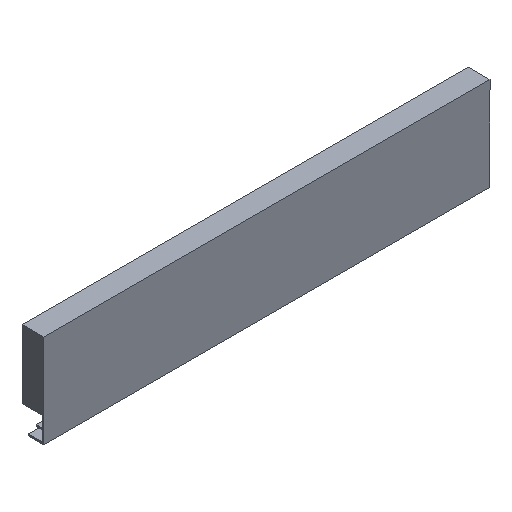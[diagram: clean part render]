
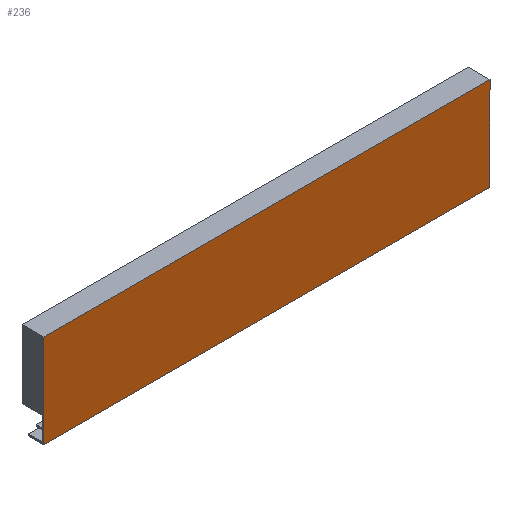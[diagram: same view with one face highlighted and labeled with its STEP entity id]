
A CAD part, isometric view. The second image highlights one B-rep face of the part: STEP entity #236.
In plain terms, the highlighted planar face has unit normal (0, -1, 0).
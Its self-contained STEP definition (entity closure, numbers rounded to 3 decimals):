
#4 = DIRECTION ( 'NONE',  ( 0., 1., 0. ) ) ;
#5 = DIRECTION ( 'NONE',  ( 0., 0., -1. ) ) ;
#7 = CARTESIAN_POINT ( 'NONE',  ( -161.5, -5.5, -17.9 ) ) ;
#11 = VERTEX_POINT ( 'NONE', #7 ) ;
#16 = VERTEX_POINT ( 'NONE', #40 ) ;
#26 = VERTEX_POINT ( 'NONE', #49 ) ;
#30 = VERTEX_POINT ( 'NONE', #53 ) ;
#40 = CARTESIAN_POINT ( 'NONE',  ( 161.5, -5.5, -17.9 ) ) ;
#49 = CARTESIAN_POINT ( 'NONE',  ( 161.5, -5.5, 49.7 ) ) ;
#53 = CARTESIAN_POINT ( 'NONE',  ( -161.5, -5.5, 49.7 ) ) ;
#57 = PLANE ( 'NONE',  #306 ) ;
#71 = CARTESIAN_POINT ( 'NONE',  ( -161.5, -5.5, -17.9 ) ) ;
#163 = CARTESIAN_POINT ( 'NONE',  ( -161.5, -5.5, -17.9 ) ) ;
#167 = CARTESIAN_POINT ( 'NONE',  ( -161.5, -5.5, 49.7 ) ) ;
#168 = DIRECTION ( 'NONE',  ( 1., 0., 0. ) ) ;
#170 = DIRECTION ( 'NONE',  ( 1., 0., 0. ) ) ;
#173 = CARTESIAN_POINT ( 'NONE',  ( 161.5, -5.5, -17.9 ) ) ;
#183 = DIRECTION ( 'NONE',  ( 0., 0., 1. ) ) ;
#192 = CARTESIAN_POINT ( 'NONE',  ( -161.5, -5.5, -17.9 ) ) ;
#193 = DIRECTION ( 'NONE',  ( 0., 0., 1. ) ) ;
#236 = ADVANCED_FACE ( 'NONE', ( #361 ), #57, .F. ) ;
#283 = EDGE_CURVE ( 'NONE', #11, #16, #485, .T. ) ;
#284 = EDGE_CURVE ( 'NONE', #30, #26, #494, .T. ) ;
#290 = EDGE_CURVE ( 'NONE', #16, #26, #502, .T. ) ;
#294 = EDGE_CURVE ( 'NONE', #11, #30, #517, .T. ) ;
#306 = AXIS2_PLACEMENT_3D ( 'NONE', #71, #4, #5 ) ;
#361 = FACE_OUTER_BOUND ( 'NONE', #397, .T. ) ;
#397 = EDGE_LOOP ( 'NONE', ( #412, #413, #414, #421 ) ) ;
#412 = ORIENTED_EDGE ( 'NONE', *, *, #290, .T. ) ;
#413 = ORIENTED_EDGE ( 'NONE', *, *, #284, .F. ) ;
#414 = ORIENTED_EDGE ( 'NONE', *, *, #294, .F. ) ;
#421 = ORIENTED_EDGE ( 'NONE', *, *, #283, .T. ) ;
#485 = LINE ( 'NONE', #163, #499 ) ;
#494 = LINE ( 'NONE', #167, #501 ) ;
#499 = VECTOR ( 'NONE', #168, 1000. ) ;
#501 = VECTOR ( 'NONE', #170, 1000. ) ;
#502 = LINE ( 'NONE', #173, #511 ) ;
#511 = VECTOR ( 'NONE', #183, 1000. ) ;
#517 = LINE ( 'NONE', #192, #518 ) ;
#518 = VECTOR ( 'NONE', #193, 1000. ) ;
